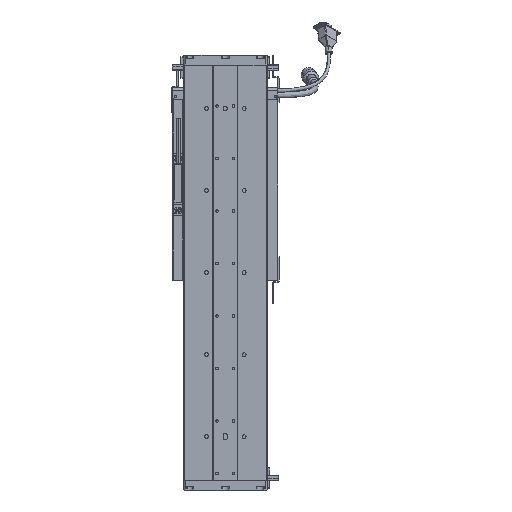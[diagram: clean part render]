
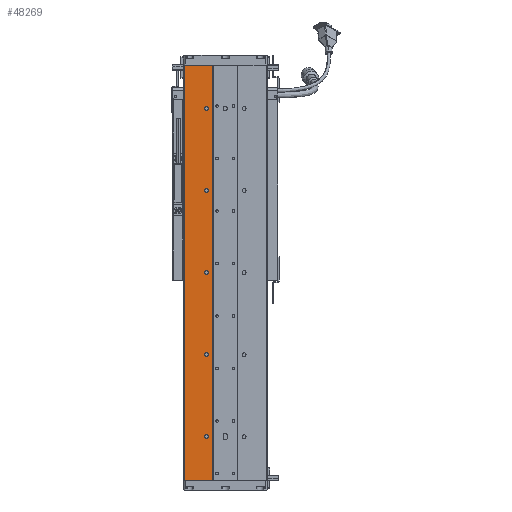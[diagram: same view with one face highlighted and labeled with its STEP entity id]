
A CAD part, front view. The second image highlights one B-rep face of the part: STEP entity #48269.
In plain terms, the highlighted planar face has unit normal (0, -1, 0).
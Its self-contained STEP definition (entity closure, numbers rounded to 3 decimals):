
#593 = ORIENTED_EDGE ( 'NONE', *, *, #1475, .T. ) ;
#804 = DIRECTION ( 'NONE',  ( 0., 1., 0. ) ) ;
#1241 = ORIENTED_EDGE ( 'NONE', *, *, #32487, .T. ) ;
#1333 = EDGE_CURVE ( 'NONE', #8353, #29277, #32697, .T. ) ;
#1475 = EDGE_CURVE ( 'NONE', #32857, #35818, #48982, .T. ) ;
#1619 = CARTESIAN_POINT ( 'NONE',  ( -23., 0.5, 253. ) ) ;
#2185 = CARTESIAN_POINT ( 'NONE',  ( -23., 0.5, 53. ) ) ;
#2197 = ORIENTED_EDGE ( 'NONE', *, *, #28031, .T. ) ;
#2702 = CARTESIAN_POINT ( 'NONE',  ( -23., 0.5, 453. ) ) ;
#2970 = EDGE_CURVE ( 'NONE', #43722, #17085, #26966, .T. ) ;
#3010 = CARTESIAN_POINT ( 'NONE',  ( -23., 0.5, 153. ) ) ;
#3095 = LINE ( 'NONE', #60913, #39026 ) ;
#4097 = FACE_BOUND ( 'NONE', #46907, .T. ) ;
#4135 = CARTESIAN_POINT ( 'NONE',  ( -64.681, 0.5, 0. ) ) ;
#4520 = CARTESIAN_POINT ( 'NONE',  ( -23., 0.5, 353. ) ) ;
#4583 = DIRECTION ( 'NONE',  ( 0., 0., 1. ) ) ;
#5149 = AXIS2_PLACEMENT_3D ( 'NONE', #1619, #21481, #61490 ) ;
#5382 = CARTESIAN_POINT ( 'NONE',  ( -50., 0.5, 506. ) ) ;
#6136 = DIRECTION ( 'NONE',  ( 0., 0., 1. ) ) ;
#6943 = DIRECTION ( 'NONE',  ( -1., 0., 0. ) ) ;
#7205 = VERTEX_POINT ( 'NONE', #31384 ) ;
#7751 = DIRECTION ( 'NONE',  ( 0., 0., 1. ) ) ;
#8153 = ORIENTED_EDGE ( 'NONE', *, *, #12935, .T. ) ;
#8240 = LINE ( 'NONE', #17389, #37881 ) ;
#8353 = VERTEX_POINT ( 'NONE', #40020 ) ;
#8638 = CARTESIAN_POINT ( 'NONE',  ( -50., 0.5, 0. ) ) ;
#8682 = CARTESIAN_POINT ( 'NONE',  ( -23., 0.5, 153. ) ) ;
#8852 = EDGE_CURVE ( 'NONE', #52911, #43812, #23544, .T. ) ;
#8888 = AXIS2_PLACEMENT_3D ( 'NONE', #47782, #52556, #28160 ) ;
#9400 = CIRCLE ( 'NONE', #8888, 2.25 ) ;
#9408 = LINE ( 'NONE', #42254, #63937 ) ;
#9951 = EDGE_LOOP ( 'NONE', ( #64068, #2197 ) ) ;
#10608 = VERTEX_POINT ( 'NONE', #38485 ) ;
#11039 = EDGE_LOOP ( 'NONE', ( #19065, #55542 ) ) ;
#11156 = DIRECTION ( 'NONE',  ( 0., 1., 0. ) ) ;
#12051 = DIRECTION ( 'NONE',  ( 0., 0., 1. ) ) ;
#12935 = EDGE_CURVE ( 'NONE', #16757, #31494, #9400, .T. ) ;
#16757 = VERTEX_POINT ( 'NONE', #25357 ) ;
#17085 = VERTEX_POINT ( 'NONE', #48205 ) ;
#17209 = DIRECTION ( 'NONE',  ( 0., 0., 1. ) ) ;
#17227 = AXIS2_PLACEMENT_3D ( 'NONE', #18279, #43765, #48321 ) ;
#17389 = CARTESIAN_POINT ( 'NONE',  ( -64.681, 0.5, 506. ) ) ;
#17459 = DIRECTION ( 'NONE',  ( 0., 1., 0. ) ) ;
#18279 = CARTESIAN_POINT ( 'NONE',  ( -23., 0.5, 453. ) ) ;
#18993 = ORIENTED_EDGE ( 'NONE', *, *, #21757, .T. ) ;
#19065 = ORIENTED_EDGE ( 'NONE', *, *, #31454, .T. ) ;
#19382 = EDGE_LOOP ( 'NONE', ( #47145, #18993, #41244, #60769 ) ) ;
#21481 = DIRECTION ( 'NONE',  ( 0., 1., 0. ) ) ;
#21552 = ORIENTED_EDGE ( 'NONE', *, *, #8852, .T. ) ;
#21757 = EDGE_CURVE ( 'NONE', #36743, #28569, #3095, .T. ) ;
#22067 = FACE_OUTER_BOUND ( 'NONE', #19382, .T. ) ;
#23544 = CIRCLE ( 'NONE', #38442, 2.25 ) ;
#25357 = CARTESIAN_POINT ( 'NONE',  ( -23., 0.5, 55.25 ) ) ;
#26966 = CIRCLE ( 'NONE', #60210, 2.25 ) ;
#28031 = EDGE_CURVE ( 'NONE', #17085, #43722, #56911, .T. ) ;
#28160 = DIRECTION ( 'NONE',  ( 0., 0., 1. ) ) ;
#28569 = VERTEX_POINT ( 'NONE', #8638 ) ;
#29195 = CARTESIAN_POINT ( 'NONE',  ( -23., 0.5, 155.25 ) ) ;
#29277 = VERTEX_POINT ( 'NONE', #29195 ) ;
#29671 = DIRECTION ( 'NONE',  ( 0., 0., 1. ) ) ;
#30345 = LINE ( 'NONE', #62090, #52150 ) ;
#30703 = CARTESIAN_POINT ( 'NONE',  ( -23., 0.5, 255.25 ) ) ;
#30711 = CIRCLE ( 'NONE', #5149, 2.25 ) ;
#31201 = EDGE_CURVE ( 'NONE', #10608, #36743, #8240, .T. ) ;
#31354 = CARTESIAN_POINT ( 'NONE',  ( -23., 0.5, 450.75 ) ) ;
#31384 = CARTESIAN_POINT ( 'NONE',  ( -15., 0.5, 0. ) ) ;
#31454 = EDGE_CURVE ( 'NONE', #29277, #8353, #44056, .T. ) ;
#31494 = VERTEX_POINT ( 'NONE', #54766 ) ;
#31620 = EDGE_LOOP ( 'NONE', ( #39252, #21552 ) ) ;
#31851 = EDGE_CURVE ( 'NONE', #43812, #52911, #30711, .T. ) ;
#31933 = DIRECTION ( 'NONE',  ( 0., 1., 0. ) ) ;
#32487 = EDGE_CURVE ( 'NONE', #31494, #16757, #48725, .T. ) ;
#32697 = CIRCLE ( 'NONE', #48498, 2.25 ) ;
#32857 = VERTEX_POINT ( 'NONE', #31354 ) ;
#33746 = EDGE_CURVE ( 'NONE', #35818, #32857, #59446, .T. ) ;
#33775 = FACE_BOUND ( 'NONE', #11039, .T. ) ;
#33942 = DIRECTION ( 'NONE',  ( 0., 0., 1. ) ) ;
#35114 = CARTESIAN_POINT ( 'NONE',  ( -23., 0.5, 455.25 ) ) ;
#35336 = FACE_BOUND ( 'NONE', #31620, .T. ) ;
#35818 = VERTEX_POINT ( 'NONE', #35114 ) ;
#36743 = VERTEX_POINT ( 'NONE', #5382 ) ;
#37122 = CARTESIAN_POINT ( 'NONE',  ( -23., 0.5, 250.75 ) ) ;
#37651 = FACE_BOUND ( 'NONE', #9951, .T. ) ;
#37881 = VECTOR ( 'NONE', #6943, 1000. ) ;
#38442 = AXIS2_PLACEMENT_3D ( 'NONE', #39742, #39300, #29671 ) ;
#38485 = CARTESIAN_POINT ( 'NONE',  ( -15., 0.5, 506. ) ) ;
#39026 = VECTOR ( 'NONE', #41159, 1000. ) ;
#39252 = ORIENTED_EDGE ( 'NONE', *, *, #31851, .T. ) ;
#39300 = DIRECTION ( 'NONE',  ( 0., 1., 0. ) ) ;
#39742 = CARTESIAN_POINT ( 'NONE',  ( -23., 0.5, 253. ) ) ;
#40020 = CARTESIAN_POINT ( 'NONE',  ( -23., 0.5, 150.75 ) ) ;
#41159 = DIRECTION ( 'NONE',  ( 0., 0., -1. ) ) ;
#41244 = ORIENTED_EDGE ( 'NONE', *, *, #43510, .F. ) ;
#41425 = CARTESIAN_POINT ( 'NONE',  ( -23., 0.5, 353. ) ) ;
#42212 = EDGE_LOOP ( 'NONE', ( #8153, #1241 ) ) ;
#42254 = CARTESIAN_POINT ( 'NONE',  ( -15., 0.5, 0. ) ) ;
#43510 = EDGE_CURVE ( 'NONE', #7205, #28569, #30345, .T. ) ;
#43722 = VERTEX_POINT ( 'NONE', #44701 ) ;
#43765 = DIRECTION ( 'NONE',  ( 0., 1., 0. ) ) ;
#43812 = VERTEX_POINT ( 'NONE', #30703 ) ;
#44029 = ORIENTED_EDGE ( 'NONE', *, *, #33746, .T. ) ;
#44056 = CIRCLE ( 'NONE', #46475, 2.25 ) ;
#44360 = AXIS2_PLACEMENT_3D ( 'NONE', #4135, #59226, #4583 ) ;
#44701 = CARTESIAN_POINT ( 'NONE',  ( -23., 0.5, 355.25 ) ) ;
#45459 = FACE_BOUND ( 'NONE', #42212, .T. ) ;
#46475 = AXIS2_PLACEMENT_3D ( 'NONE', #8682, #48504, #33942 ) ;
#46907 = EDGE_LOOP ( 'NONE', ( #44029, #593 ) ) ;
#47145 = ORIENTED_EDGE ( 'NONE', *, *, #31201, .T. ) ;
#47782 = CARTESIAN_POINT ( 'NONE',  ( -23., 0.5, 53. ) ) ;
#48205 = CARTESIAN_POINT ( 'NONE',  ( -23., 0.5, 350.75 ) ) ;
#48269 = ADVANCED_FACE ( 'NONE', ( #45459, #33775, #4097, #37651, #35336, #22067 ), #64042, .F. ) ;
#48321 = DIRECTION ( 'NONE',  ( 0., 0., 1. ) ) ;
#48498 = AXIS2_PLACEMENT_3D ( 'NONE', #3010, #62022, #17209 ) ;
#48504 = DIRECTION ( 'NONE',  ( 0., 1., 0. ) ) ;
#48725 = CIRCLE ( 'NONE', #58162, 2.25 ) ;
#48982 = CIRCLE ( 'NONE', #17227, 2.25 ) ;
#49212 = AXIS2_PLACEMENT_3D ( 'NONE', #4520, #804, #60242 ) ;
#52042 = DIRECTION ( 'NONE',  ( 0., 0., 1. ) ) ;
#52150 = VECTOR ( 'NONE', #57730, 1000. ) ;
#52556 = DIRECTION ( 'NONE',  ( 0., 1., 0. ) ) ;
#52911 = VERTEX_POINT ( 'NONE', #37122 ) ;
#54766 = CARTESIAN_POINT ( 'NONE',  ( -23., 0.5, 50.75 ) ) ;
#55542 = ORIENTED_EDGE ( 'NONE', *, *, #1333, .T. ) ;
#56911 = CIRCLE ( 'NONE', #49212, 2.25 ) ;
#57011 = AXIS2_PLACEMENT_3D ( 'NONE', #2702, #31933, #7751 ) ;
#57730 = DIRECTION ( 'NONE',  ( -1., 0., 0. ) ) ;
#58162 = AXIS2_PLACEMENT_3D ( 'NONE', #2185, #17459, #12051 ) ;
#59226 = DIRECTION ( 'NONE',  ( 0., 1., 0. ) ) ;
#59446 = CIRCLE ( 'NONE', #57011, 2.25 ) ;
#59929 = EDGE_CURVE ( 'NONE', #7205, #10608, #9408, .T. ) ;
#60210 = AXIS2_PLACEMENT_3D ( 'NONE', #41425, #11156, #6136 ) ;
#60242 = DIRECTION ( 'NONE',  ( 0., 0., 1. ) ) ;
#60769 = ORIENTED_EDGE ( 'NONE', *, *, #59929, .T. ) ;
#60913 = CARTESIAN_POINT ( 'NONE',  ( -50., 0.5, 0. ) ) ;
#61490 = DIRECTION ( 'NONE',  ( 0., 0., 1. ) ) ;
#62022 = DIRECTION ( 'NONE',  ( 0., 1., 0. ) ) ;
#62090 = CARTESIAN_POINT ( 'NONE',  ( -64.681, 0.5, 0. ) ) ;
#63937 = VECTOR ( 'NONE', #52042, 1000. ) ;
#64042 = PLANE ( 'NONE',  #44360 ) ;
#64068 = ORIENTED_EDGE ( 'NONE', *, *, #2970, .T. ) ;
